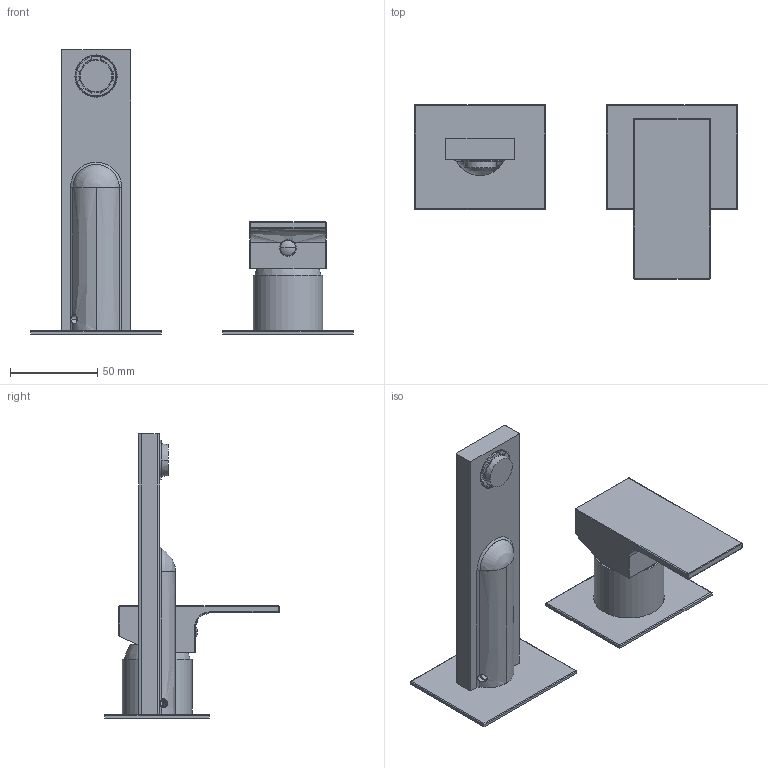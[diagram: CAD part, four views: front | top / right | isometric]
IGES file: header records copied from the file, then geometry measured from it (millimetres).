
Start section:  PTC IGES file: 35547B.igs
Global section: file name: 35547B.igs; native system: Creo Parametric by PTC Inc.; preprocessor: 2022014; author: carloff; organization: Unknown; date: 20260203.161555; units: millimetre
Bounding box: 185 x 100 x 163 mm (x, y, z)
Surface area: 90911.6 mm2 (no closed solid volume)
Topology: 0 solids, 0 shells, 914 faces, 5165 edges, 5156 vertices
Faces by surface type: revolution 529, bspline 385
